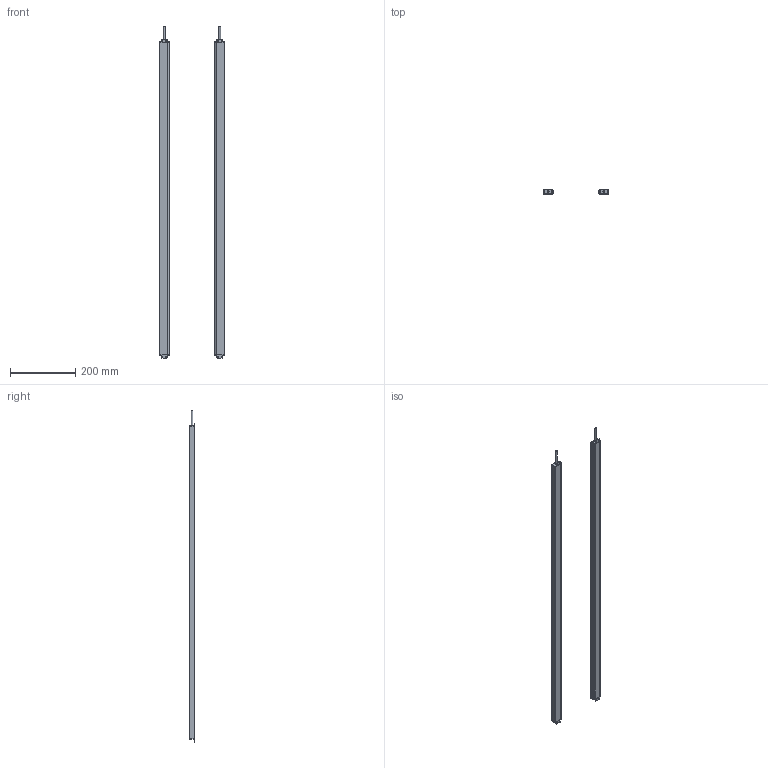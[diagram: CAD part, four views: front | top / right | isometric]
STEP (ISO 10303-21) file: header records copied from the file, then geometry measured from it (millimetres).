
FILE_DESCRIPTION(/* description */ (''),/* implementation_level */ '2;1');
FILE_NAME(/* name */ '2440（16X30ZW).stp',/* time_stamp */ '2023-10-23T10:58:44+08:00',/* author */ (''),/* organization */ (''),/* preprocessor_version */ 'ST-DEVELOPER v16.7',/* originating_system */ 'SIEMENS PLM Software NX 12.0',/* authorisation */ '');
FILE_SCHEMA (('AP203_CONFIGURATION_CONTROLLED_3D_DESIGN_OF_MECHANICAL_PARTS_AND_ASSEMBLIES_MIM_LF { 1 0 10303 403 2 1 2}'));
Length unit declared in the file: millimetre
Products named in the file (1): 2240（16X30ZW__stp
Bounding box: 200 x 16 x 1021.5 mm (x, y, z)
Volume: 275596.1 mm3; surface area: 406471.1 mm2
Topology: 10 solids, 10 shells, 296 faces, 830 edges, 554 vertices
Faces by surface type: plane 160, cylinder 136
Full cylindrical faces by diameter (mm): 5 x2
Entity records: 9825 total; most frequent: DIRECTION 1692, CARTESIAN_POINT 1675, ORIENTED_EDGE 1652, EDGE_CURVE 826, AXIS2_PLACEMENT_3D 569, LINE 554, VECTOR 554, VERTEX_POINT 552
